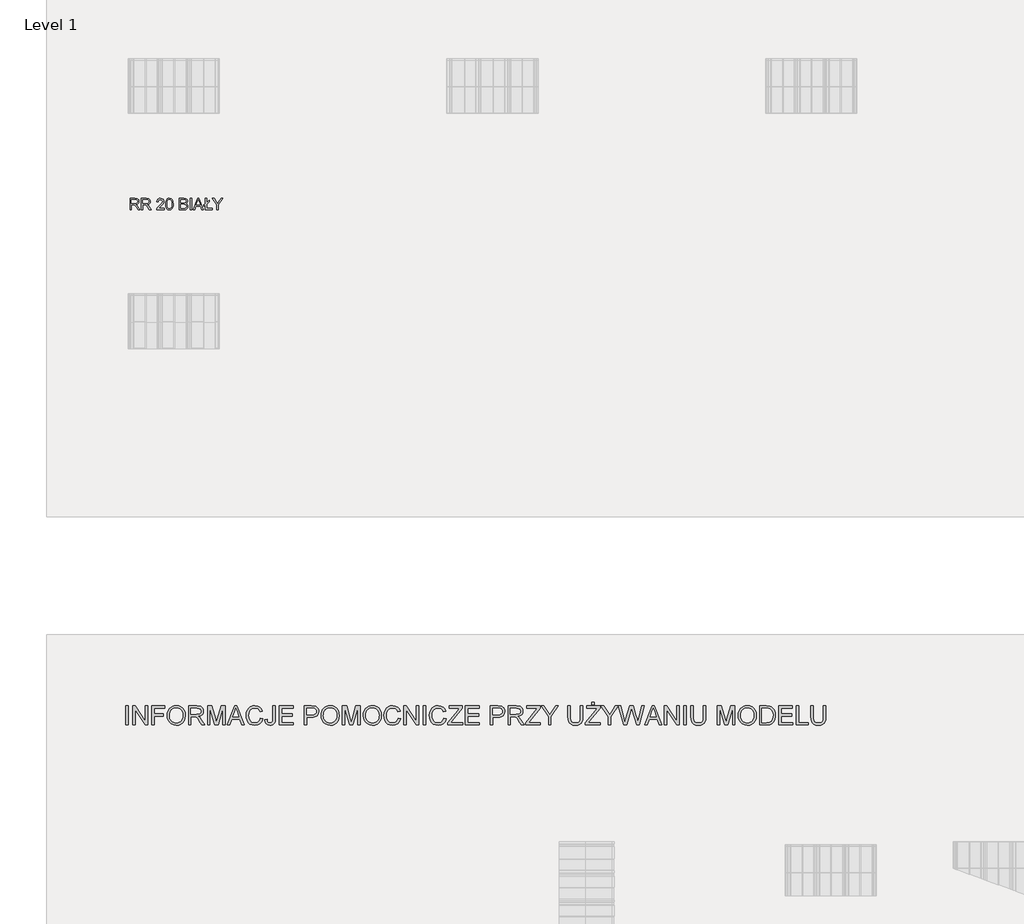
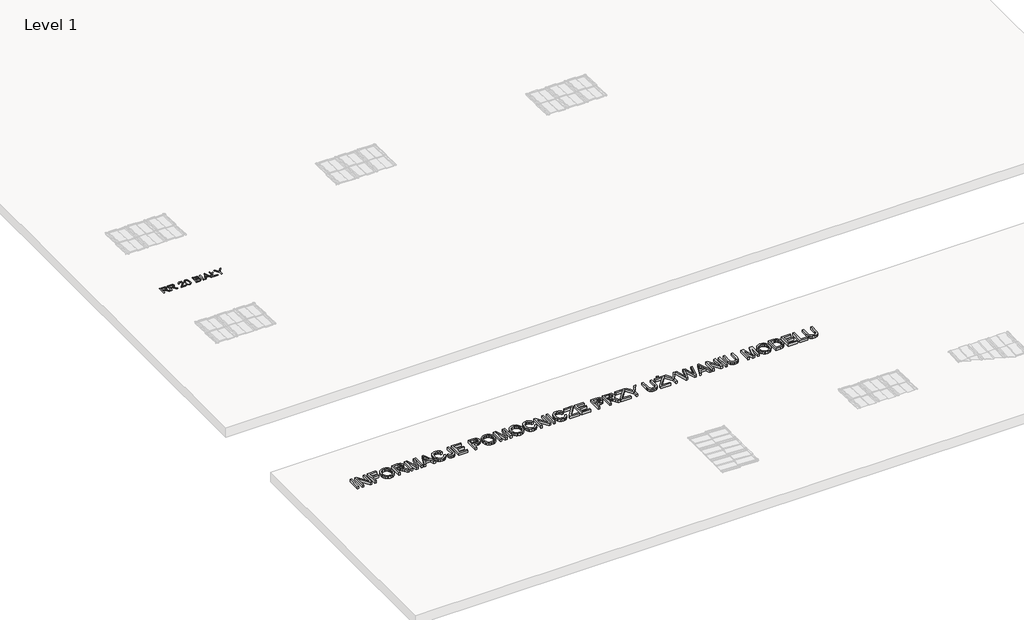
# One storey, part 4 of 10: 2 proxies.
"""IFC4 building model written with IfcOpenShell, lengths in millimetres."""

import ifcopenshell
import ifcopenshell.guid

model = None  # the IFC model being written
_history = None  # IfcOwnerHistory: only IFC2X3 demands one
_inside = {}  # id of a spatial element -> (the spatial element, [elements in it])
_under = {}  # id of a project, library or spatial element -> (it, [spatial elements below it])
_declared = {}  # id of a project -> (the project, [libraries it declares])
_typed = {}  # id of a type object -> (the type object, [elements of that type])
_made_of = {}  # id of a material, layer set ... -> (it, [elements and type objects made of it])


def new_model(schema):
    """Start an empty IFC model of exactly this schema.

    Asked for "IFC4X3", IfcOpenShell would pick the latest addendum, in which some entities
    have other attributes; the version numbers below select the first issue.
    IFC2X3 requires an IfcOwnerHistory on every rooted entity: one is made here for all.
    """
    global model, _history
    if schema == "IFC4X3":
        model = ifcopenshell.file(schema_version=(4, 3, 0, 0))
    else:
        model = ifcopenshell.file(schema=schema)
    _inside.clear()
    _under.clear()
    _declared.clear()
    _typed.clear()
    _made_of.clear()
    _history = None
    if model.schema == "IFC2X3":
        org = make("IfcOrganization", Name="unknown")
        user = make(
            "IfcPersonAndOrganization",
            ThePerson=make("IfcPerson", FamilyName="unknown"),
            TheOrganization=org,
        )
        app = make(
            "IfcApplication",
            ApplicationDeveloper=org,
            Version="unknown",
            ApplicationFullName="unknown",
            ApplicationIdentifier="unknown",
        )
        _history = make(
            "IfcOwnerHistory",
            OwningUser=user,
            OwningApplication=app,
            ChangeAction="ADDED",
            CreationDate=0,
        )
    return model


def make(cls, **values):
    """One entity of the class cls with the attributes given. An attribute that is None is left unset."""
    return model.create_entity(
        cls, **{name: value for name, value in values.items() if value is not None}
    )


def rooted(cls, **values):
    """An entity with a GlobalId (a new one), such as an element, a storey or a relation."""
    return make(cls, GlobalId=ifcopenshell.guid.new(), OwnerHistory=_history, **values)


def si_unit(unit_type, name, prefix=None):
    """IfcSIUnit, for example si_unit("LENGTHUNIT", "METRE", prefix="MILLI")."""
    return make("IfcSIUnit", UnitType=unit_type, Prefix=prefix, Name=name)


def assignment(units):
    """IfcUnitAssignment: the units of a project."""
    return None if units is None else make("IfcUnitAssignment", Units=units)


def point(xyz):
    """IfcCartesianPoint."""
    return None if xyz is None else make("IfcCartesianPoint", Coordinates=xyz)


def direction(xyz):
    """IfcDirection."""
    return None if xyz is None else make("IfcDirection", DirectionRatios=xyz)


def frame(location, z_axis=None, x_axis=None):
    """IfcAxis2Placement3D, a coordinate frame: its origin and axes. An axis left out is left unset."""
    return make(
        "IfcAxis2Placement3D",
        Location=point(location),
        Axis=direction(z_axis),
        RefDirection=direction(x_axis),
    )


def origin():
    """The frame at (0, 0, 0) with its axes left unset."""
    return frame((0.0, 0.0, 0.0))


def place(relative_to, where):
    """IfcLocalPlacement: puts the frame where relative to a parent placement (None: the world)."""
    return make(
        "IfcLocalPlacement", PlacementRelTo=relative_to, RelativePlacement=where
    )


def context(
    kind, dimensions, precision=None, world=None, true_north=None, identifier=None
):
    """IfcGeometricRepresentationContext, for example the 3D "Model" context."""
    return make(
        "IfcGeometricRepresentationContext",
        ContextIdentifier=identifier,
        ContextType=kind,
        CoordinateSpaceDimension=dimensions,
        Precision=precision,
        WorldCoordinateSystem=world,
        TrueNorth=true_north,
    )


def project(units=None, contexts=None):
    """IfcProject with its units and contexts."""
    return rooted(
        "IfcProject",
        Name="project",
        RepresentationContexts=contexts,
        UnitsInContext=assignment(units),
    )


def spatial(cls, under=None, at=None, **own):
    """A site, building, storey or space (cls), placed at a placement, below another one or the project."""
    s = rooted(cls, ObjectPlacement=at, **own)
    if under is not None:
        _under.setdefault(under.id(), (under, []))[1].append(s)
    return s


def polyline(points):
    """IfcPolyline through the points."""
    return make("IfcPolyline", Points=[point(p) for p in points])


def outline(outer, holes=None, kind="AREA"):
    """IfcArbitraryClosedProfileDef: a profile drawn as a closed curve; with holes, ...WithVoids."""
    if holes is None:
        return make("IfcArbitraryClosedProfileDef", ProfileType=kind, OuterCurve=outer)
    return make(
        "IfcArbitraryProfileDefWithVoids",
        ProfileType=kind,
        OuterCurve=outer,
        InnerCurves=holes,
    )


def extrude(swept, where, along, depth):
    """IfcExtrudedAreaSolid: the profile swept, set in the frame where, extruded along a direction by depth."""
    return make(
        "IfcExtrudedAreaSolid",
        SweptArea=swept,
        Position=where,
        ExtrudedDirection=direction(along),
        Depth=depth,
    )


def shape(context_of_items, identifier, shape_type, items):
    """IfcShapeRepresentation: the items that make up one representation, for example the "Body"."""
    return make(
        "IfcShapeRepresentation",
        ContextOfItems=context_of_items,
        RepresentationIdentifier=identifier,
        RepresentationType=shape_type,
        Items=items,
    )


def made_of(thing, what):
    """Note that an element or type object is made of a material, layer set ...; save() writes the relation."""
    if what is not None:
        _made_of.setdefault(what.id(), (what, []))[1].append(thing)
    return thing


def element(
    cls,
    number,
    at=None,
    inside=None,
    cuts=None,
    type_object=None,
    material=None,
    context=None,
    identifier="Body",
    shape_type=None,
    held_by="IfcProductDefinitionShape",
    body=None,
    shapes=None,
    **own,
):
    """One element of the class cls, such as IfcWall. Its Tag is "e" and its number.

    at: its placement. inside: the storey or other place that contains it. cuts: it is an
    opening in that element (IfcRelVoidsElement). A single representation is given by context,
    identifier, shape_type and body (its items); several are given by shapes. held_by: the class
    of the entity that holds the representations. save() writes the other relations.
    """
    e = rooted(cls, Tag="e%d" % number, ObjectPlacement=at, **own)
    if body is not None:
        shapes = [shape(context, identifier, shape_type, body)]
    if shapes is not None:
        e.Representation = make(held_by, Representations=shapes)
    if inside is not None:
        _inside.setdefault(inside.id(), (inside, []))[1].append(e)
    if cuts is not None:
        rooted(
            "IfcRelVoidsElement", RelatingBuildingElement=cuts, RelatedOpeningElement=e
        )
    if type_object is not None:
        _typed.setdefault(type_object.id(), (type_object, []))[1].append(e)
    return made_of(e, material)


def aggregate(whole, parts):
    """IfcRelAggregates: a whole, such as a stair, and the parts it consists of."""
    return rooted("IfcRelAggregates", RelatingObject=whole, RelatedObjects=parts)


def save(model, path):
    """Write the relations noted so far, then the file.

    IfcRelAggregates (storeys below a building ...), IfcRelContainedInSpatialStructure (elements
    in a storey), IfcRelDefinesByType, IfcRelAssociatesMaterial and IfcRelDeclares: one each for
    every whole, place, type object, material and project.
    """
    for whole, parts in _under.values():
        aggregate(whole, parts)
    for where, things in _inside.values():
        rooted(
            "IfcRelContainedInSpatialStructure",
            RelatedElements=things,
            RelatingStructure=where,
        )
    for kind, things in _typed.values():
        rooted("IfcRelDefinesByType", RelatedObjects=things, RelatingType=kind)
    for what, things in _made_of.values():
        rooted("IfcRelAssociatesMaterial", RelatedObjects=things, RelatingMaterial=what)
    for by, libraries in _declared.values():
        rooted("IfcRelDeclares", RelatingContext=by, RelatedDefinitions=libraries)
    model.write(path)


model = new_model("IFC4")

# Units and contexts
model_context = context("Model", 3, world=origin())
ifc_project = project(units=[si_unit("LENGTHUNIT", "METRE", prefix="MILLI")], contexts=[model_context])

# Site, building, storey
site = spatial("IfcSite", under=ifc_project)
building = spatial("IfcBuilding", under=site)
storey = spatial("IfcBuildingStorey", under=building, Name="Level 1", Elevation=0.0)

# Proxies
placement = place(None, origin())
element("IfcBuildingElementProxy", 1, Name="150", ObjectType="150", at=placement, inside=storey, context=model_context, shape_type="SweptSolid", body=[
    extrude(outline(polyline([(-8736.4118342, -7835.6514112), (-8736.4118342, -7684.966946), (-8671.4806621, -7684.966946), (-8641.3327325, -7689.032042), (-8632.0529092, -7694.6606365), (-8624.8516192, -7703.416228), (-8620.2301016, -7714.2733454), (-8618.6895957, -7726.2065176), (-8621.2417771, -7741.0505561), (-8628.8983211, -7753.3562089), (-8641.8891541, -7762.3785148), (-8660.4442022, -7767.3725129), (-8649.7388361, -7775.4291286), (-8634.4717333, -7794.8165097), (-8609.3453931, -7835.6514112), (-8631.2343718, -7835.6514112), (-8650.8424821, -7804.4182298), (-8665.0059389, -7783.7432617), (-8674.9571469, -7773.9759947), (-8683.9150735, -7770.3891452), (-8694.8411687, -7769.7269577), (-8717.576276, -7769.7269577), (-8717.576276, -7835.6514112), (-8736.4118342, -7835.6514112)]), holes=[polyline([(-8717.576276, -7750.8913995), (-8675.4169994, -7750.8913995), (-8653.9142968, -7748.224255), (-8641.7006145, -7739.6893927), (-8637.5251539, -7726.9054934), (-8639.5163152, -7717.7176406), (-8645.4897991, -7710.3140154), (-8655.7675023, -7705.4303819), (-8670.6713217, -7703.8025041), (-8717.576276, -7703.8025041), (-8717.576276, -7750.8913995)])]), frame((0.0, 0.0, 600.0), z_axis=(0.0, 0.0, 1.0), x_axis=(1.0, 0.0, 0.0)), (0.0, 0.0, 1.0), 10.0),
    extrude(outline(polyline([(-8585.727369, -7835.6514112), (-8585.727369, -7684.966946), (-8520.7961968, -7684.966946), (-8490.6482673, -7689.032042), (-8481.368444, -7694.6606365), (-8474.1671539, -7703.416228), (-8469.5456364, -7714.2733454), (-8468.0051305, -7726.2065176), (-8470.5573119, -7741.0505561), (-8478.2138559, -7753.3562089), (-8491.2046888, -7762.3785148), (-8509.759737, -7767.3725129), (-8499.0543709, -7775.4291286), (-8483.7872681, -7794.8165097), (-8458.6609278, -7835.6514112), (-8480.5499066, -7835.6514112), (-8500.1580169, -7804.4182298), (-8514.3214737, -7783.7432617), (-8524.2726817, -7773.9759947), (-8533.2306083, -7770.3891452), (-8544.1567035, -7769.7269577), (-8566.8918108, -7769.7269577), (-8566.8918108, -7835.6514112), (-8585.727369, -7835.6514112)]), holes=[polyline([(-8566.8918108, -7750.8913995), (-8524.7325342, -7750.8913995), (-8503.2298316, -7748.224255), (-8491.0161493, -7739.6893927), (-8486.8406887, -7726.9054934), (-8488.83185, -7717.7176406), (-8494.8053339, -7710.3140154), (-8505.0830371, -7705.4303819), (-8519.9868564, -7703.8025041), (-8566.8918108, -7703.8025041), (-8566.8918108, -7750.8913995)])]), frame((0.0, 0.0, 600.0), z_axis=(0.0, 0.0, 1.0), x_axis=(1.0, 0.0, 0.0)), (0.0, 0.0, 1.0), 10.0),
    extrude(outline(polyline([(-8286.7128833, -7816.815853), (-8286.7128833, -7835.6514112), (-8385.5995636, -7835.6514112), (-8383.5762126, -7822.6651768), (-8372.1166885, -7802.6707903), (-8348.5170585, -7780.8369939), (-8316.0146842, -7749.4566597), (-8309.9308357, -7738.6409291), (-8307.9028862, -7728.119504), (-8309.8204711, -7718.6879293), (-8315.5732258, -7710.8474443), (-8324.4161893, -7705.5637392), (-8335.6044005, -7703.8025041), (-8347.3536317, -7705.5223524), (-8356.4817037, -7710.6818974), (-8362.3724141, -7718.8764689), (-8364.4095607, -7729.7013966), (-8383.2451188, -7727.3469518), (-8378.6787836, -7709.127596), (-8368.8057505, -7695.8194648), (-8354.1410545, -7687.6800757), (-8335.1997303, -7684.966946), (-8316.1204503, -7687.9835783), (-8301.4833454, -7697.0334754), (-8292.1713324, -7710.5531387), (-8289.0673281, -7726.9790698), (-8292.4150542, -7744.8397407), (-8303.5434846, -7763.3074168), (-8330.5276289, -7789.1143388), (-8352.1958784, -7807.2325271), (-8360.6939525, -7816.815853), (-8286.7128833, -7816.815853)])), frame((0.0, 0.0, 600.0), z_axis=(0.0, 0.0, 1.0), x_axis=(1.0, 0.0, 0.0)), (0.0, 0.0, 1.0), 10.0),
    extrude(outline(polyline([(-8267.8773251, -7761.5231892), (-8266.4931691, -7737.4039259), (-8262.3407011, -7718.168296), (-8255.4613078, -7703.5219941), (-8245.8963759, -7693.1707145), (-8233.5769276, -7687.0178881), (-8218.433985, -7684.966946), (-8196.4346417, -7689.8229883), (-8181.2411153, -7703.8208982), (-8172.4119474, -7726.1145471), (-8168.9906448, -7761.5231892), (-8170.3610053, -7785.5044967), (-8174.4720866, -7804.6941413), (-8181.3100932, -7819.3542388), (-8190.8612295, -7829.7469052), (-8203.2082689, -7835.9411183), (-8218.433985, -7838.005856), (-8238.0053071, -7834.4190065), (-8252.8677397, -7823.6584581), (-8264.1249288, -7798.1734329), (-8267.8773251, -7761.5231892)]), holes=[polyline([(-8249.041767, -7761.486401), (-8246.834475, -7791.1146971), (-8240.2125991, -7808.2625966), (-8230.3533616, -7816.4433725), (-8218.433985, -7819.1702978), (-8206.5146083, -7816.4341755), (-8196.6553709, -7808.2258084), (-8190.033495, -7791.0687119), (-8187.826203, -7761.486401), (-8189.9599186, -7732.5248909), (-8196.3610653, -7715.2436342), (-8206.2019087, -7706.6627866), (-8218.6547142, -7703.8025041), (-8230.4453321, -7706.3224958), (-8239.9182935, -7713.8824708), (-8246.7608986, -7732.2397823), (-8249.041767, -7761.486401)])]), frame((0.0, 0.0, 600.0), z_axis=(0.0, 0.0, 1.0), x_axis=(1.0, 0.0, 0.0)), (0.0, 0.0, 1.0), 10.0),
    extrude(outline(polyline([(-8086.5850779, -7835.6514112), (-8086.5850779, -7684.966946), (-8029.0851221, -7684.966946), (-8000.9237553, -7689.399924), (-7991.459991, -7695.02392), (-7984.2954892, -7703.0299519), (-7978.2806185, -7722.3069685), (-7983.338996, -7739.9101219), (-7998.6244929, -7753.2458443), (-7987.9513165, -7758.8192565), (-7980.0648462, -7767.2989365), (-7975.1950083, -7778.1238642), (-7973.571729, -7790.7330196), (-7978.004707, -7810.9849234), (-7988.9859846, -7825.4058976), (-8005.3751275, -7833.0578431), (-8029.5265805, -7835.6514112), (-8086.5850779, -7835.6514112)]), holes=[polyline([(-8067.7495198, -7746.18251), (-8033.3525532, -7746.18251), (-8013.2661963, -7744.5638292), (-8001.1812727, -7737.5924654), (-7997.1161767, -7725.3236008), (-8000.9053612, -7713.0363422), (-8011.7578801, -7705.7706728), (-8035.9645154, -7703.8025041), (-8067.7495198, -7703.8025041), (-8067.7495198, -7746.18251)]), polyline([(-8067.7495198, -7816.815853), (-8029.1219103, -7816.815853), (-8015.1423945, -7816.080089), (-8003.3149883, -7811.9782048), (-7995.4791018, -7803.6088894), (-7992.4072872, -7790.9169606), (-7996.0125307, -7776.2752572), (-8007.6927841, -7767.5380598), (-8030.9613203, -7765.0180681), (-8067.7495198, -7765.0180681), (-8067.7495198, -7816.815853)])]), frame((0.0, 0.0, 600.0), z_axis=(0.0, 0.0, 1.0), x_axis=(1.0, 0.0, 0.0)), (0.0, 0.0, 1.0), 10.0),
    extrude(outline(polyline([(-7945.3183918, -7835.6514112), (-7945.3183918, -7684.966946), (-7926.4828336, -7684.966946), (-7926.4828336, -7835.6514112), (-7945.3183918, -7835.6514112)])), frame((0.0, 0.0, 600.0), z_axis=(0.0, 0.0, 1.0), x_axis=(1.0, 0.0, 0.0)), (0.0, 0.0, 1.0), 10.0),
    extrude(outline(polyline([(-7906.3229003, -7835.6514112), (-7846.1741941, -7684.966946), (-7830.1345391, -7684.966946), (-7770.0226211, -7835.6514112), (-7789.925037, -7835.6514112), (-7807.1419144, -7788.5625158), (-7869.2403952, -7788.5625158), (-7886.4572725, -7835.6514112), (-7906.3229003, -7835.6514112)]), holes=[polyline([(-7862.3242137, -7769.7269577), (-7814.0213077, -7769.7269577), (-7827.6329415, -7732.6812407), (-7838.1911548, -7703.8025041), (-7847.5721457, -7729.4438792), (-7862.3242137, -7769.7269577)])]), frame((0.0, 0.0, 600.0), z_axis=(0.0, 0.0, 1.0), x_axis=(1.0, 0.0, 0.0)), (0.0, 0.0, 1.0), 10.0),
    extrude(outline(polyline([(-7747.5450312, -7776.0177398), (-7764.0261446, -7789.7397382), (-7764.0261446, -7770.90418), (-7747.5450312, -7757.1821816), (-7747.5450312, -7684.966946), (-7728.709473, -7684.966946), (-7728.709473, -7741.4736204), (-7693.3928015, -7712.0430608), (-7693.3928015, -7730.878619), (-7728.709473, -7760.3091786), (-7728.709473, -7816.815853), (-7653.3672404, -7816.815853), (-7653.3672404, -7835.6514112), (-7747.5450312, -7835.6514112), (-7747.5450312, -7776.0177398)])), frame((0.0, 0.0, 600.0), z_axis=(0.0, 0.0, 1.0), x_axis=(1.0, 0.0, 0.0)), (0.0, 0.0, 1.0), 10.0),
    extrude(outline(polyline([(-7592.1516764, -7835.6514112), (-7592.1516764, -7771.823885), (-7651.0127956, -7684.966946), (-7628.8295113, -7684.966946), (-7597.4123889, -7731.3568656), (-7581.3359457, -7755.048466), (-7565.1859262, -7729.6646084), (-7536.6750715, -7684.966946), (-7514.454999, -7684.966946), (-7573.3161183, -7771.823885), (-7573.3161183, -7835.6514112), (-7592.1516764, -7835.6514112)])), frame((0.0, 0.0, 600.0), z_axis=(0.0, 0.0, 1.0), x_axis=(1.0, 0.0, 0.0)), (0.0, 0.0, 1.0), 10.0),
])
element("IfcBuildingElementProxy", 2, Name="250", ObjectType="250", at=placement, inside=storey, context=model_context, shape_type="SweptSolid", body=[
    extrude(outline(polyline([(-8793.2713947, -14626.8895255), (-8793.2713947, -14375.7487501), (-8761.8787978, -14375.7487501), (-8761.8787978, -14626.8895255), (-8793.2713947, -14626.8895255)])), frame((0.0, 0.0, 600.0), z_axis=(0.0, 0.0, 1.0), x_axis=(1.0, 0.0, 0.0)), (0.0, 0.0, 1.0), 50.0),
    extrude(outline(polyline([(-8699.0936039, -14626.8895255), (-8699.0936039, -14375.7487501), (-8665.493715, -14375.7487501), (-8534.2824701, -14574.7115958), (-8534.2824701, -14375.7487501), (-8502.8898732, -14375.7487501), (-8502.8898732, -14626.8895255), (-8536.4897621, -14626.8895255), (-8667.701007, -14427.8653661), (-8667.701007, -14626.8895255), (-8699.0936039, -14626.8895255)])), frame((0.0, 0.0, 600.0), z_axis=(0.0, 0.0, 1.0), x_axis=(1.0, 0.0, 0.0)), (0.0, 0.0, 1.0), 50.0),
    extrude(outline(polyline([(-8447.9528286, -14626.8895255), (-8447.9528286, -14375.7487501), (-8279.2176201, -14375.7487501), (-8279.2176201, -14407.141347), (-8416.5602316, -14407.141347), (-8416.5602316, -14481.6987647), (-8298.8379932, -14481.6987647), (-8298.8379932, -14513.0913616), (-8416.5602316, -14513.0913616), (-8416.5602316, -14626.8895255), (-8447.9528286, -14626.8895255)])), frame((0.0, 0.0, 600.0), z_axis=(0.0, 0.0, 1.0), x_axis=(1.0, 0.0, 0.0)), (0.0, 0.0, 1.0), 50.0),
    extrude(outline(polyline([(-8247.8250232, -14504.6300758), (-8245.7326943, -14475.1726914), (-8239.4557078, -14449.0952229), (-8228.9940635, -14426.3976702), (-8214.3477616, -14407.0800334), (-8196.3943538, -14391.6558143), (-8176.011392, -14380.638515), (-8153.1988762, -14374.0281354), (-8127.9568064, -14371.8246755), (-8095.0160394, -14375.9633479), (-8065.4781809, -14388.3793653), (-8040.9527146, -14408.1990078), (-8023.0491241, -14434.5485557), (-8012.1046348, -14466.1557504), (-8008.4564716, -14501.7483335), (-8012.29624, -14537.8160974), (-8023.8155449, -14569.8678162), (-8042.3782573, -14596.2633494), (-8067.3482477, -14615.3625563), (-8096.6331874, -14626.9508392), (-8128.1407474, -14630.8136001), (-8161.5873521, -14626.5446361), (-8191.2938232, -14613.7377442), (-8215.7579759, -14593.5502197), (-8233.4776254, -14567.1393581), (-8244.2381737, -14536.7507725), (-8247.8250232, -14504.6300758)]), holes=[polyline([(-8216.4324263, -14504.9366441), (-8214.8631796, -14525.7488015), (-8210.1554397, -14544.2233755), (-8202.3092065, -14560.3603659), (-8191.3244801, -14574.1597728), (-8177.9715133, -14585.2115611), (-8163.0205591, -14593.1056956), (-8146.4716175, -14597.8421763), (-8128.3246884, -14599.4210032), (-8109.8673589, -14597.8268479), (-8093.12298, -14593.0443819), (-8078.0915516, -14585.0736054), (-8064.7730737, -14573.9145182), (-8053.8688215, -14559.8238713), (-8046.0800699, -14543.0584158), (-8041.4068189, -14523.6181517), (-8039.8490686, -14501.5030788), (-8042.516213, -14473.7126597), (-8050.5176464, -14449.6930311), (-8063.6464351, -14430.0496654), (-8081.6956455, -14415.3880351), (-8103.4696611, -14406.2599631), (-8127.7728654, -14403.2172724), (-8161.5413669, -14409.0803917), (-8190.2514909, -14426.6697496), (-8201.7056501, -14440.3561095), (-8209.8871924, -14457.9627118), (-8214.7961178, -14479.4895567), (-8216.4324263, -14504.9366441)])]), frame((0.0, 0.0, 600.0), z_axis=(0.0, 0.0, 1.0), x_axis=(1.0, 0.0, 0.0)), (0.0, 0.0, 1.0), 50.0),
    extrude(outline(polyline([(-7965.2916509, -14626.8895255), (-7965.2916509, -14375.7487501), (-7857.0730306, -14375.7487501), (-7827.9873604, -14377.4425401), (-7806.8264815, -14382.5239102), (-7791.3601092, -14391.9049011), (-7779.3579592, -14406.4975535), (-7771.6554299, -14424.5927492), (-7769.0879201, -14444.4813695), (-7773.3415557, -14469.2214337), (-7786.1024624, -14489.7308549), (-7807.7538507, -14504.7680315), (-7838.6789309, -14513.0913616), (-7820.8366541, -14526.5190545), (-7795.3914828, -14558.8313564), (-7753.514249, -14626.8895255), (-7789.9958802, -14626.8895255), (-7822.6760641, -14574.8342232), (-7846.2818254, -14540.375943), (-7862.8671721, -14524.0971647), (-7877.7970497, -14518.1190822), (-7896.0072085, -14517.0154363), (-7933.899054, -14517.0154363), (-7933.899054, -14626.8895255), (-7965.2916509, -14626.8895255)]), holes=[polyline([(-7933.899054, -14485.6228393), (-7863.6335929, -14485.6228393), (-7827.7957552, -14481.1775986), (-7816.0082029, -14475.3987856), (-7807.4396181, -14466.9528281), (-7802.2202923, -14456.7364385), (-7800.480517, -14445.6463292), (-7803.7991192, -14430.3332411), (-7813.7549257, -14417.9938659), (-7830.8844311, -14409.8544767), (-7855.72413, -14407.141347), (-7933.899054, -14407.141347), (-7933.899054, -14485.6228393)])]), frame((0.0, 0.0, 600.0), z_axis=(0.0, 0.0, 1.0), x_axis=(1.0, 0.0, 0.0)), (0.0, 0.0, 1.0), 50.0),
    extrude(outline(polyline([(-7714.1508755, -14626.8895255), (-7714.1508755, -14375.7487501), (-7660.3174769, -14375.7487501), (-7608.8139976, -14552.7613035), (-7598.3906744, -14589.733444), (-7587.1702735, -14549.6956202), (-7536.6478128, -14375.7487501), (-7482.6304732, -14375.7487501), (-7482.6304732, -14626.8895255), (-7514.0230701, -14626.8895255), (-7514.0230701, -14407.141347), (-7577.1148323, -14626.8895255), (-7619.6052027, -14626.8895255), (-7682.7582786, -14407.141347), (-7682.7582786, -14626.8895255), (-7714.1508755, -14626.8895255)])), frame((0.0, 0.0, 600.0), z_axis=(0.0, 0.0, 1.0), x_axis=(1.0, 0.0, 0.0)), (0.0, 0.0, 1.0), 50.0),
    extrude(outline(polyline([(-7456.8787335, -14626.8895255), (-7356.6308899, -14375.7487501), (-7329.8981315, -14375.7487501), (-7229.7116015, -14626.8895255), (-7262.8822948, -14626.8895255), (-7291.5770904, -14548.4080332), (-7395.0745584, -14548.4080332), (-7423.769354, -14626.8895255), (-7456.8787335, -14626.8895255)]), holes=[polyline([(-7383.5475892, -14517.0154363), (-7303.0427459, -14517.0154363), (-7325.7288023, -14455.2725747), (-7343.3258244, -14407.141347), (-7358.9608092, -14449.8769721), (-7383.5475892, -14517.0154363)])]), frame((0.0, 0.0, 600.0), z_axis=(0.0, 0.0, 1.0), x_axis=(1.0, 0.0, 0.0)), (0.0, 0.0, 1.0), 50.0),
    extrude(outline(polyline([(-7019.5896686, -14537.616828), (-6988.1970717, -14545.7102319), (-7002.6824253, -14582.2914978), (-7025.4144669, -14609.0165919), (-7055.2742221, -14625.364348), (-7091.1427167, -14630.8136001), (-7127.55537, -14626.6902561), (-7156.4724277, -14614.320224), (-7178.6373179, -14594.1326995), (-7194.7934688, -14566.5568783), (-7204.6573048, -14534.1372775), (-7207.9452501, -14499.4184142), (-7204.2281091, -14462.7988272), (-7193.0766862, -14431.1763041), (-7175.073461, -14405.5548559), (-7150.8009136, -14386.9384941), (-7122.0141474, -14375.6031302), (-7090.4682663, -14371.8246755), (-7056.0483072, -14376.7144403), (-7027.591102, -14391.3837349), (-7005.985699, -14414.9281826), (-6992.1211463, -14446.4434069), (-7023.5137432, -14453.9236741), (-7034.3969189, -14431.0306841), (-7049.2654829, -14415.3267214), (-7068.3033761, -14406.2446347), (-7091.6945397, -14403.2172724), (-7118.6572242, -14406.5741956), (-7140.806786, -14416.6449652), (-7157.6143947, -14432.3719205), (-7168.5512198, -14452.6974008), (-7174.5522949, -14475.6746971), (-7176.5526532, -14499.3571005), (-7174.1844129, -14528.3584644), (-7167.0796918, -14553.4357538), (-7154.9702428, -14573.6309425), (-7137.5878186, -14587.9860045), (-7116.7488364, -14596.5622535), (-7094.2697136, -14599.4210032), (-7068.0657857, -14595.5275854), (-7046.2304564, -14583.847332), (-7029.7447445, -14564.5028705), (-7019.5896686, -14537.616828)])), frame((0.0, 0.0, 600.0), z_axis=(0.0, 0.0, 1.0), x_axis=(1.0, 0.0, 0.0)), (0.0, 0.0, 1.0), 50.0),
    extrude(outline(polyline([(-6960.7285494, -14556.3788097), (-6929.3359525, -14552.3321078), (-6926.0709998, -14575.1561199), (-6918.6060609, -14589.4268756), (-6907.2017191, -14596.9224713), (-6892.1185573, -14599.4210032), (-6880.5226102, -14598.0031247), (-6870.6281174, -14593.7494891), (-6862.994566, -14587.0509711), (-6858.1814432, -14578.2984453), (-6854.7785348, -14547.1817599), (-6854.7785348, -14375.7487501), (-6823.3859379, -14375.7487501), (-6823.3859379, -14546.6299369), (-6825.2789973, -14574.5813043), (-6830.9581756, -14595.4049581), (-6840.7530337, -14610.6184114), (-6854.9931326, -14621.7391776), (-6872.8737304, -14628.5449945), (-6893.5900853, -14630.8136001), (-6922.6067776, -14626.1307689), (-6943.9286049, -14612.0822752), (-6956.8657884, -14588.7907464), (-6960.7285494, -14556.3788097)])), frame((0.0, 0.0, 600.0), z_axis=(0.0, 0.0, 1.0), x_axis=(1.0, 0.0, 0.0)), (0.0, 0.0, 1.0), 50.0),
    extrude(outline(polyline([(-6768.4488932, -14626.8895255), (-6768.4488932, -14375.7487501), (-6587.9414609, -14375.7487501), (-6587.9414609, -14407.141347), (-6737.0562963, -14407.141347), (-6737.0562963, -14481.6987647), (-6595.7896102, -14481.6987647), (-6595.7896102, -14513.0913616), (-6737.0562963, -14513.0913616), (-6737.0562963, -14595.4969286), (-6584.0173863, -14595.4969286), (-6584.0173863, -14626.8895255), (-6768.4488932, -14626.8895255)])), frame((0.0, 0.0, 600.0), z_axis=(0.0, 0.0, 1.0), x_axis=(1.0, 0.0, 0.0)), (0.0, 0.0, 1.0), 50.0),
    extrude(outline(polyline([(-6438.8266256, -14626.8895255), (-6438.8266256, -14375.7487501), (-6345.7524808, -14375.7487501), (-6308.2285173, -14378.1399831), (-6291.4975507, -14382.6082165), (-6277.7249685, -14389.8815501), (-6266.6348592, -14400.2895449), (-6257.9513113, -14414.1617618), (-6252.3411108, -14430.5248464), (-6250.471044, -14448.4054442), (-6255.5217573, -14478.0046164), (-6270.6738969, -14502.6680384), (-6282.8082546, -14512.3785903), (-6299.0084748, -14519.3146987), (-6319.2745574, -14523.4763638), (-6343.6065025, -14524.8635855), (-6407.4340286, -14524.8635855), (-6407.4340286, -14626.8895255), (-6438.8266256, -14626.8895255)]), holes=[polyline([(-6407.4340286, -14493.4709886), (-6341.7670925, -14493.4709886), (-6313.9306882, -14490.5892463), (-6295.5365884, -14481.9440194), (-6285.2818778, -14468.0718025), (-6281.863641, -14449.5090901), (-6283.8793277, -14435.406947), (-6289.926388, -14423.5120958), (-6299.2537294, -14414.5603006), (-6311.1102596, -14409.2873253), (-6342.5028565, -14407.141347), (-6407.4340286, -14407.141347), (-6407.4340286, -14493.4709886)])]), frame((0.0, 0.0, 600.0), z_axis=(0.0, 0.0, 1.0), x_axis=(1.0, 0.0, 0.0)), (0.0, 0.0, 1.0), 50.0),
    extrude(outline(polyline([(-6219.0784471, -14504.6300758), (-6216.9861183, -14475.1726914), (-6210.7091317, -14449.0952229), (-6200.2474875, -14426.3976702), (-6185.6011855, -14407.0800334), (-6167.6477778, -14391.6558143), (-6147.264816, -14380.638515), (-6124.4523002, -14374.0281354), (-6099.2102303, -14371.8246755), (-6066.2694634, -14375.9633479), (-6036.7316048, -14388.3793653), (-6012.2061385, -14408.1990078), (-5994.3025481, -14434.5485557), (-5983.3580587, -14466.1557504), (-5979.7098956, -14501.7483335), (-5983.5496639, -14537.8160974), (-5995.0689689, -14569.8678162), (-6013.6316812, -14596.2633494), (-6038.6016716, -14615.3625563), (-6067.8866113, -14626.9508392), (-6099.3941713, -14630.8136001), (-6132.8407761, -14626.5446361), (-6162.5472472, -14613.7377442), (-6187.0113999, -14593.5502197), (-6204.7310493, -14567.1393581), (-6215.4915977, -14536.7507725), (-6219.0784471, -14504.6300758)]), holes=[polyline([(-6187.6858502, -14504.9366441), (-6186.1166035, -14525.7488015), (-6181.4088636, -14544.2233755), (-6173.5626305, -14560.3603659), (-6162.577904, -14574.1597728), (-6149.2249372, -14585.2115611), (-6134.273983, -14593.1056956), (-6117.7250414, -14597.8421763), (-6099.5781123, -14599.4210032), (-6081.1207829, -14597.8268479), (-6064.3764039, -14593.0443819), (-6049.3449755, -14585.0736054), (-6036.0264977, -14573.9145182), (-6025.1222454, -14559.8238713), (-6017.3334938, -14543.0584158), (-6012.6602428, -14523.6181517), (-6011.1024925, -14501.5030788), (-6013.769637, -14473.7126597), (-6021.7710704, -14449.6930311), (-6034.8998591, -14430.0496654), (-6052.9490695, -14415.3880351), (-6074.723085, -14406.2599631), (-6099.0262893, -14403.2172724), (-6132.7947908, -14409.0803917), (-6161.5049149, -14426.6697496), (-6172.9590741, -14440.3561095), (-6181.1406164, -14457.9627118), (-6186.0495417, -14479.4895567), (-6187.6858502, -14504.9366441)])]), frame((0.0, 0.0, 600.0), z_axis=(0.0, 0.0, 1.0), x_axis=(1.0, 0.0, 0.0)), (0.0, 0.0, 1.0), 50.0),
    extrude(outline(polyline([(-5936.5450748, -14626.8895255), (-5936.5450748, -14375.7487501), (-5882.7116762, -14375.7487501), (-5831.2081969, -14552.7613035), (-5820.7848737, -14589.733444), (-5809.5644728, -14549.6956202), (-5759.0420121, -14375.7487501), (-5705.0246725, -14375.7487501), (-5705.0246725, -14626.8895255), (-5736.4172694, -14626.8895255), (-5736.4172694, -14407.141347), (-5799.5090316, -14626.8895255), (-5841.9994021, -14626.8895255), (-5905.1524779, -14407.141347), (-5905.1524779, -14626.8895255), (-5936.5450748, -14626.8895255)])), frame((0.0, 0.0, 600.0), z_axis=(0.0, 0.0, 1.0), x_axis=(1.0, 0.0, 0.0)), (0.0, 0.0, 1.0), 50.0),
    extrude(outline(polyline([(-5661.8598517, -14504.6300758), (-5659.7675229, -14475.1726914), (-5653.4905364, -14449.0952229), (-5643.0288921, -14426.3976702), (-5628.3825902, -14407.0800334), (-5610.4291824, -14391.6558143), (-5590.0462206, -14380.638515), (-5567.2337048, -14374.0281354), (-5541.991635, -14371.8246755), (-5509.050868, -14375.9633479), (-5479.5130095, -14388.3793653), (-5454.9875431, -14408.1990078), (-5437.0839527, -14434.5485557), (-5426.1394633, -14466.1557504), (-5422.4913002, -14501.7483335), (-5426.3310685, -14537.8160974), (-5437.8503735, -14569.8678162), (-5456.4130859, -14596.2633494), (-5481.3830763, -14615.3625563), (-5510.6680159, -14626.9508392), (-5542.175576, -14630.8136001), (-5575.6221807, -14626.5446361), (-5605.3286518, -14613.7377442), (-5629.7928045, -14593.5502197), (-5647.5124539, -14567.1393581), (-5658.2730023, -14536.7507725), (-5661.8598517, -14504.6300758)]), holes=[polyline([(-5630.4672548, -14504.9366441), (-5628.8980082, -14525.7488015), (-5624.1902683, -14544.2233755), (-5616.3440351, -14560.3603659), (-5605.3593087, -14574.1597728), (-5592.0063419, -14585.2115611), (-5577.0553876, -14593.1056956), (-5560.506446, -14597.8421763), (-5542.359517, -14599.4210032), (-5523.9021875, -14597.8268479), (-5507.1578086, -14593.0443819), (-5492.1263802, -14585.0736054), (-5478.8079023, -14573.9145182), (-5467.90365, -14559.8238713), (-5460.1148984, -14543.0584158), (-5455.4416475, -14523.6181517), (-5453.8838971, -14501.5030788), (-5456.5510416, -14473.7126597), (-5464.552475, -14449.6930311), (-5477.6812637, -14430.0496654), (-5495.7304741, -14415.3880351), (-5517.5044897, -14406.2599631), (-5541.807694, -14403.2172724), (-5575.5761955, -14409.0803917), (-5604.2863195, -14426.6697496), (-5615.7404787, -14440.3561095), (-5623.922021, -14457.9627118), (-5628.8309464, -14479.4895567), (-5630.4672548, -14504.9366441)])]), frame((0.0, 0.0, 600.0), z_axis=(0.0, 0.0, 1.0), x_axis=(1.0, 0.0, 0.0)), (0.0, 0.0, 1.0), 50.0),
    extrude(outline(polyline([(-5202.7431218, -14537.616828), (-5171.3505248, -14545.7102319), (-5185.8358784, -14582.2914978), (-5208.56792, -14609.0165919), (-5238.4276753, -14625.364348), (-5274.2961698, -14630.8136001), (-5310.7088231, -14626.6902561), (-5339.6258808, -14614.320224), (-5361.790771, -14594.1326995), (-5377.946922, -14566.5568783), (-5387.810758, -14534.1372775), (-5391.0987033, -14499.4184142), (-5387.3815623, -14462.7988272), (-5376.2301393, -14431.1763041), (-5358.2269142, -14405.5548559), (-5333.9543667, -14386.9384941), (-5305.1676006, -14375.6031302), (-5273.6217195, -14371.8246755), (-5239.2017603, -14376.7144403), (-5210.7445552, -14391.3837349), (-5189.1391522, -14414.9281826), (-5175.2745995, -14446.4434069), (-5206.6671964, -14453.9236741), (-5217.5503721, -14431.0306841), (-5232.418936, -14415.3267214), (-5251.4568293, -14406.2446347), (-5274.8479928, -14403.2172724), (-5301.8106774, -14406.5741956), (-5323.9602392, -14416.6449652), (-5340.7678478, -14432.3719205), (-5351.704673, -14452.6974008), (-5357.705748, -14475.6746971), (-5359.7061064, -14499.3571005), (-5357.337866, -14528.3584644), (-5350.233145, -14553.4357538), (-5338.123696, -14573.6309425), (-5320.7412717, -14587.9860045), (-5299.9022895, -14596.5622535), (-5277.4231668, -14599.4210032), (-5251.2192388, -14595.5275854), (-5229.3839096, -14583.847332), (-5212.8981977, -14564.5028705), (-5202.7431218, -14537.616828)])), frame((0.0, 0.0, 600.0), z_axis=(0.0, 0.0, 1.0), x_axis=(1.0, 0.0, 0.0)), (0.0, 0.0, 1.0), 50.0),
    extrude(outline(polyline([(-5128.1857041, -14626.8895255), (-5128.1857041, -14375.7487501), (-5094.5858152, -14375.7487501), (-4963.3745702, -14574.7115958), (-4963.3745702, -14375.7487501), (-4931.9819733, -14375.7487501), (-4931.9819733, -14626.8895255), (-4965.5818622, -14626.8895255), (-5096.7931072, -14427.8653661), (-5096.7931072, -14626.8895255), (-5128.1857041, -14626.8895255)])), frame((0.0, 0.0, 600.0), z_axis=(0.0, 0.0, 1.0), x_axis=(1.0, 0.0, 0.0)), (0.0, 0.0, 1.0), 50.0),
    extrude(outline(polyline([(-4873.1208541, -14626.8895255), (-4873.1208541, -14375.7487501), (-4841.7282572, -14375.7487501), (-4841.7282572, -14626.8895255), (-4873.1208541, -14626.8895255)])), frame((0.0, 0.0, 600.0), z_axis=(0.0, 0.0, 1.0), x_axis=(1.0, 0.0, 0.0)), (0.0, 0.0, 1.0), 50.0),
    extrude(outline(polyline([(-4602.3597056, -14537.616828), (-4570.9671087, -14545.7102319), (-4585.4524623, -14582.2914978), (-4608.1845039, -14609.0165919), (-4638.0442592, -14625.364348), (-4673.9127537, -14630.8136001), (-4710.325407, -14626.6902561), (-4739.2424647, -14614.320224), (-4761.4073549, -14594.1326995), (-4777.5635058, -14566.5568783), (-4787.4273418, -14534.1372775), (-4790.7152872, -14499.4184142), (-4786.9981462, -14462.7988272), (-4775.8467232, -14431.1763041), (-4757.8434981, -14405.5548559), (-4733.5709506, -14386.9384941), (-4704.7841845, -14375.6031302), (-4673.2383034, -14371.8246755), (-4638.8183442, -14376.7144403), (-4610.361139, -14391.3837349), (-4588.755736, -14414.9281826), (-4574.8911833, -14446.4434069), (-4606.2837803, -14453.9236741), (-4617.1669559, -14431.0306841), (-4632.0355199, -14415.3267214), (-4651.0734132, -14406.2446347), (-4674.4645767, -14403.2172724), (-4701.4272613, -14406.5741956), (-4723.576823, -14416.6449652), (-4740.3844317, -14432.3719205), (-4751.3212569, -14452.6974008), (-4757.3223319, -14475.6746971), (-4759.3226902, -14499.3571005), (-4756.9544499, -14528.3584644), (-4749.8497289, -14553.4357538), (-4737.7402799, -14573.6309425), (-4720.3578556, -14587.9860045), (-4699.5188734, -14596.5622535), (-4677.0397507, -14599.4210032), (-4650.8358227, -14595.5275854), (-4629.0004935, -14583.847332), (-4612.5147815, -14564.5028705), (-4602.3597056, -14537.616828)])), frame((0.0, 0.0, 600.0), z_axis=(0.0, 0.0, 1.0), x_axis=(1.0, 0.0, 0.0)), (0.0, 0.0, 1.0), 50.0),
    extrude(outline(polyline([(-4547.422661, -14626.8895255), (-4547.422661, -14594.3319689), (-4419.0318447, -14437.0011023), (-4394.6290057, -14407.141347), (-4531.7263626, -14407.141347), (-4531.7263626, -14375.7487501), (-4355.1430049, -14375.7487501), (-4355.1430049, -14407.141347), (-4495.673927, -14579.3101208), (-4508.9176789, -14595.4969286), (-4351.2189303, -14595.4969286), (-4351.2189303, -14626.8895255), (-4547.422661, -14626.8895255)])), frame((0.0, 0.0, 600.0), z_axis=(0.0, 0.0, 1.0), x_axis=(1.0, 0.0, 0.0)), (0.0, 0.0, 1.0), 50.0),
    extrude(outline(polyline([(-4315.9022587, -14626.8895255), (-4315.9022587, -14375.7487501), (-4135.3948264, -14375.7487501), (-4135.3948264, -14407.141347), (-4284.5096618, -14407.141347), (-4284.5096618, -14481.6987647), (-4143.2429757, -14481.6987647), (-4143.2429757, -14513.0913616), (-4284.5096618, -14513.0913616), (-4284.5096618, -14595.4969286), (-4131.4707518, -14595.4969286), (-4131.4707518, -14626.8895255), (-4315.9022587, -14626.8895255)])), frame((0.0, 0.0, 600.0), z_axis=(0.0, 0.0, 1.0), x_axis=(1.0, 0.0, 0.0)), (0.0, 0.0, 1.0), 50.0),
    extrude(outline(polyline([(-3986.279991, -14626.8895255), (-3986.279991, -14375.7487501), (-3893.2058463, -14375.7487501), (-3855.6818828, -14378.1399831), (-3838.9509162, -14382.6082165), (-3825.178334, -14389.8815501), (-3814.0882247, -14400.2895449), (-3805.4046768, -14414.1617618), (-3799.7944763, -14430.5248464), (-3797.9244095, -14448.4054442), (-3802.9751227, -14478.0046164), (-3818.1272624, -14502.6680384), (-3830.2616201, -14512.3785903), (-3846.4618403, -14519.3146987), (-3866.7279229, -14523.4763638), (-3891.059868, -14524.8635855), (-3954.8873941, -14524.8635855), (-3954.8873941, -14626.8895255), (-3986.279991, -14626.8895255)]), holes=[polyline([(-3954.8873941, -14493.4709886), (-3889.220458, -14493.4709886), (-3861.3840537, -14490.5892463), (-3842.9899539, -14481.9440194), (-3832.7352433, -14468.0718025), (-3829.3170064, -14449.5090901), (-3831.3326932, -14435.406947), (-3837.3797535, -14423.5120958), (-3846.7070949, -14414.5603006), (-3858.5636251, -14409.2873253), (-3889.956222, -14407.141347), (-3954.8873941, -14407.141347), (-3954.8873941, -14493.4709886)])]), frame((0.0, 0.0, 600.0), z_axis=(0.0, 0.0, 1.0), x_axis=(1.0, 0.0, 0.0)), (0.0, 0.0, 1.0), 50.0),
    extrude(outline(polyline([(-3754.7595887, -14626.8895255), (-3754.7595887, -14375.7487501), (-3646.5409685, -14375.7487501), (-3617.4552983, -14377.4425401), (-3596.2944193, -14382.5239102), (-3580.8280471, -14391.9049011), (-3568.825897, -14406.4975535), (-3561.1233677, -14424.5927492), (-3558.555858, -14444.4813695), (-3562.8094936, -14469.2214337), (-3575.5704003, -14489.7308549), (-3597.2217885, -14504.7680315), (-3628.1468687, -14513.0913616), (-3610.304592, -14526.5190545), (-3584.8594206, -14558.8313564), (-3542.9821869, -14626.8895255), (-3579.463818, -14626.8895255), (-3612.144002, -14574.8342232), (-3635.7497633, -14540.375943), (-3652.3351099, -14524.0971647), (-3667.2649876, -14518.1190822), (-3685.4751463, -14517.0154363), (-3723.3669918, -14517.0154363), (-3723.3669918, -14626.8895255), (-3754.7595887, -14626.8895255)]), holes=[polyline([(-3723.3669918, -14485.6228393), (-3653.1015307, -14485.6228393), (-3617.2636931, -14481.1775986), (-3605.4761408, -14475.3987856), (-3596.907556, -14466.9528281), (-3591.6882302, -14456.7364385), (-3589.9484549, -14445.6463292), (-3593.2670571, -14430.3332411), (-3603.2228636, -14417.9938659), (-3620.352369, -14409.8544767), (-3645.1920679, -14407.141347), (-3723.3669918, -14407.141347), (-3723.3669918, -14485.6228393)])]), frame((0.0, 0.0, 600.0), z_axis=(0.0, 0.0, 1.0), x_axis=(1.0, 0.0, 0.0)), (0.0, 0.0, 1.0), 50.0),
    extrude(outline(polyline([(-3523.2391865, -14626.8895255), (-3523.2391865, -14594.3319689), (-3394.8483701, -14437.0011023), (-3370.4455311, -14407.141347), (-3507.542888, -14407.141347), (-3507.542888, -14375.7487501), (-3330.9595303, -14375.7487501), (-3330.9595303, -14407.141347), (-3471.4904525, -14579.3101208), (-3484.7342043, -14595.4969286), (-3327.0354557, -14595.4969286), (-3327.0354557, -14626.8895255), (-3523.2391865, -14626.8895255)])), frame((0.0, 0.0, 600.0), z_axis=(0.0, 0.0, 1.0), x_axis=(1.0, 0.0, 0.0)), (0.0, 0.0, 1.0), 50.0),
    extrude(outline(polyline([(-3221.0854411, -14626.8895255), (-3221.0854411, -14520.5103152), (-3319.1873065, -14375.7487501), (-3282.2151659, -14375.7487501), (-3229.8532953, -14453.0652828), (-3203.0592233, -14492.5512836), (-3176.142524, -14450.2448541), (-3128.624433, -14375.7487501), (-3091.5909788, -14375.7487501), (-3189.6928442, -14520.5103152), (-3189.6928442, -14626.8895255), (-3221.0854411, -14626.8895255)])), frame((0.0, 0.0, 600.0), z_axis=(0.0, 0.0, 1.0), x_axis=(1.0, 0.0, 0.0)), (0.0, 0.0, 1.0), 50.0),
    extrude(outline(polyline([(-2801.2094573, -14375.7487501), (-2769.8168603, -14375.7487501), (-2769.8168603, -14520.6329425), (-2771.9475102, -14554.5623924), (-2778.3394599, -14580.6896783), (-2790.2802963, -14600.8465459), (-2809.0576065, -14616.8647411), (-2834.7173756, -14627.3263854), (-2867.3055891, -14630.8136001), (-2899.1810311, -14627.7785736), (-2924.6645235, -14618.6734943), (-2943.7637304, -14603.8125945), (-2956.486316, -14583.5101069), (-2963.6370223, -14556.279175), (-2966.0205911, -14520.6329425), (-2966.0205911, -14375.7487501), (-2934.6279942, -14375.7487501), (-2934.6279942, -14519.5292966), (-2933.0798241, -14547.7412471), (-2928.4353139, -14567.3846128), (-2920.0200133, -14580.9885824), (-2907.1594719, -14591.0823446), (-2890.3901842, -14597.3363385), (-2870.248645, -14599.4210032), (-2838.3195535, -14595.2976591), (-2817.0896967, -14582.9276271), (-2810.1420919, -14572.7802154), (-2805.1795171, -14558.8313564), (-2801.2094573, -14519.5292966), (-2801.2094573, -14375.7487501)])), frame((0.0, 0.0, 600.0), z_axis=(0.0, 0.0, 1.0), x_axis=(1.0, 0.0, 0.0)), (0.0, 0.0, 1.0), 50.0),
    extrude(outline(polyline([(-2734.5001888, -14626.8895255), (-2734.5001888, -14594.3319689), (-2606.1093725, -14437.0011023), (-2581.7065335, -14407.141347), (-2718.8038903, -14407.141347), (-2718.8038903, -14375.7487501), (-2542.2205326, -14375.7487501), (-2542.2205326, -14407.141347), (-2682.7514548, -14579.3101208), (-2695.9952066, -14595.4969286), (-2538.296458, -14595.4969286), (-2538.296458, -14626.8895255), (-2734.5001888, -14626.8895255)])), frame((0.0, 0.0, 600.0), z_axis=(0.0, 0.0, 1.0), x_axis=(1.0, 0.0, 0.0)), (0.0, 0.0, 1.0), 50.0),
    extrude(outline(polyline([(-2648.1705473, -14360.0524516), (-2648.1705473, -14328.6598547), (-2616.7779503, -14328.6598547), (-2616.7779503, -14360.0524516), (-2648.1705473, -14360.0524516)])), frame((0.0, 0.0, 600.0), z_axis=(0.0, 0.0, 1.0), x_axis=(1.0, 0.0, 0.0)), (0.0, 0.0, 1.0), 50.0),
    extrude(outline(polyline([(-2432.3464434, -14626.8895255), (-2432.3464434, -14520.5103152), (-2530.4483088, -14375.7487501), (-2493.4761683, -14375.7487501), (-2441.1142976, -14453.0652828), (-2414.3202257, -14492.5512836), (-2387.4035263, -14450.2448541), (-2339.8854353, -14375.7487501), (-2302.8519811, -14375.7487501), (-2400.9538465, -14520.5103152), (-2400.9538465, -14626.8895255), (-2432.3464434, -14626.8895255)])), frame((0.0, 0.0, 600.0), z_axis=(0.0, 0.0, 1.0), x_axis=(1.0, 0.0, 0.0)), (0.0, 0.0, 1.0), 50.0),
    extrude(outline(polyline([(-2230.4405417, -14626.8895255), (-2298.9279065, -14375.7487501), (-2266.5542909, -14375.7487501), (-2226.8230354, -14540.8051386), (-2214.5603023, -14591.7567949), (-2201.4391778, -14546.6912505), (-2151.6524811, -14375.7487501), (-2104.9927814, -14375.7487501), (-2068.8177185, -14499.6636688), (-2053.3206895, -14545.6489182), (-2041.9010192, -14591.7567949), (-2030.006168, -14542.2766666), (-1989.9683442, -14375.7487501), (-1957.533415, -14375.7487501), (-2025.9594661, -14626.8895255), (-2059.559355, -14626.8895255), (-2119.8306885, -14433.1383414), (-2128.2306607, -14406.0990147), (-2137.6729653, -14438.6565713), (-2192.5486962, -14626.8895255), (-2230.4405417, -14626.8895255)])), frame((0.0, 0.0, 600.0), z_axis=(0.0, 0.0, 1.0), x_axis=(1.0, 0.0, 0.0)), (0.0, 0.0, 1.0), 50.0),
    extrude(outline(polyline([(-1955.326123, -14626.8895255), (-1855.0782793, -14375.7487501), (-1828.345521, -14375.7487501), (-1728.158991, -14626.8895255), (-1761.3296842, -14626.8895255), (-1790.0244798, -14548.4080332), (-1893.5219478, -14548.4080332), (-1922.2167434, -14626.8895255), (-1955.326123, -14626.8895255)]), holes=[polyline([(-1881.9949786, -14517.0154363), (-1801.4901354, -14517.0154363), (-1824.1761917, -14455.2725747), (-1841.7732138, -14407.141347), (-1857.4081986, -14449.8769721), (-1881.9949786, -14517.0154363)])]), frame((0.0, 0.0, 600.0), z_axis=(0.0, 0.0, 1.0), x_axis=(1.0, 0.0, 0.0)), (0.0, 0.0, 1.0), 50.0),
    extrude(outline(polyline([(-1694.6204158, -14626.8895255), (-1694.6204158, -14375.7487501), (-1661.0205269, -14375.7487501), (-1529.8092819, -14574.7115958), (-1529.8092819, -14375.7487501), (-1498.416685, -14375.7487501), (-1498.416685, -14626.8895255), (-1532.0165739, -14626.8895255), (-1663.2278188, -14427.8653661), (-1663.2278188, -14626.8895255), (-1694.6204158, -14626.8895255)])), frame((0.0, 0.0, 600.0), z_axis=(0.0, 0.0, 1.0), x_axis=(1.0, 0.0, 0.0)), (0.0, 0.0, 1.0), 50.0),
    extrude(outline(polyline([(-1439.5555658, -14626.8895255), (-1439.5555658, -14375.7487501), (-1408.1629688, -14375.7487501), (-1408.1629688, -14626.8895255), (-1439.5555658, -14626.8895255)])), frame((0.0, 0.0, 600.0), z_axis=(0.0, 0.0, 1.0), x_axis=(1.0, 0.0, 0.0)), (0.0, 0.0, 1.0), 50.0),
    extrude(outline(polyline([(-1180.5666412, -14375.7487501), (-1149.1740442, -14375.7487501), (-1149.1740442, -14520.6329425), (-1151.3046941, -14554.5623924), (-1157.6966438, -14580.6896783), (-1169.6374802, -14600.8465459), (-1188.4147904, -14616.8647411), (-1214.0745596, -14627.3263854), (-1246.662773, -14630.8136001), (-1278.538215, -14627.7785736), (-1304.0217074, -14618.6734943), (-1323.1209143, -14603.8125945), (-1335.8435, -14583.5101069), (-1342.9942062, -14556.279175), (-1345.377775, -14520.6329425), (-1345.377775, -14375.7487501), (-1313.9851781, -14375.7487501), (-1313.9851781, -14519.5292966), (-1312.437008, -14547.7412471), (-1307.7924978, -14567.3846128), (-1299.3771972, -14580.9885824), (-1286.5166558, -14591.0823446), (-1269.7473682, -14597.3363385), (-1249.6058289, -14599.4210032), (-1217.6767374, -14595.2976591), (-1196.4468806, -14582.9276271), (-1189.4992759, -14572.7802154), (-1184.536701, -14558.8313564), (-1180.5666412, -14519.5292966), (-1180.5666412, -14375.7487501)])), frame((0.0, 0.0, 600.0), z_axis=(0.0, 0.0, 1.0), x_axis=(1.0, 0.0, 0.0)), (0.0, 0.0, 1.0), 50.0),
    extrude(outline(polyline([(-996.1351343, -14626.8895255), (-996.1351343, -14375.7487501), (-942.3017356, -14375.7487501), (-890.7982563, -14552.7613035), (-880.3749331, -14589.733444), (-869.1545322, -14549.6956202), (-818.6320716, -14375.7487501), (-764.614732, -14375.7487501), (-764.614732, -14626.8895255), (-796.0073289, -14626.8895255), (-796.0073289, -14407.141347), (-859.099091, -14626.8895255), (-901.5894615, -14626.8895255), (-964.7425373, -14407.141347), (-964.7425373, -14626.8895255), (-996.1351343, -14626.8895255)])), frame((0.0, 0.0, 600.0), z_axis=(0.0, 0.0, 1.0), x_axis=(1.0, 0.0, 0.0)), (0.0, 0.0, 1.0), 50.0),
    extrude(outline(polyline([(-721.4499112, -14504.6300758), (-719.3575823, -14475.1726914), (-713.0805958, -14449.0952229), (-702.6189516, -14426.3976702), (-687.9726496, -14407.0800334), (-670.0192418, -14391.6558143), (-649.63628, -14380.638515), (-626.8237642, -14374.0281354), (-601.5816944, -14371.8246755), (-568.6409274, -14375.9633479), (-539.1030689, -14388.3793653), (-514.5776026, -14408.1990078), (-496.6740121, -14434.5485557), (-485.7295228, -14466.1557504), (-482.0813597, -14501.7483335), (-485.921128, -14537.8160974), (-497.440433, -14569.8678162), (-516.0031453, -14596.2633494), (-540.9731357, -14615.3625563), (-570.2580754, -14626.9508392), (-601.7656354, -14630.8136001), (-635.2122401, -14626.5446361), (-664.9187113, -14613.7377442), (-689.3828639, -14593.5502197), (-707.1025134, -14567.1393581), (-717.8630617, -14536.7507725), (-721.4499112, -14504.6300758)]), holes=[polyline([(-690.0573143, -14504.9366441), (-688.4880676, -14525.7488015), (-683.7803277, -14544.2233755), (-675.9340945, -14560.3603659), (-664.9493681, -14574.1597728), (-651.5964013, -14585.2115611), (-636.6454471, -14593.1056956), (-620.0965055, -14597.8421763), (-601.9495764, -14599.4210032), (-583.4922469, -14597.8268479), (-566.747868, -14593.0443819), (-551.7164396, -14585.0736054), (-538.3979618, -14573.9145182), (-527.4937095, -14559.8238713), (-519.7049579, -14543.0584158), (-515.0317069, -14523.6181517), (-513.4739566, -14501.5030788), (-516.141101, -14473.7126597), (-524.1425344, -14449.6930311), (-537.2713231, -14430.0496654), (-555.3205335, -14415.3880351), (-577.0945491, -14406.2599631), (-601.3977534, -14403.2172724), (-635.1662549, -14409.0803917), (-663.8763789, -14426.6697496), (-675.3305381, -14440.3561095), (-683.5120804, -14457.9627118), (-688.4210058, -14479.4895567), (-690.0573143, -14504.9366441)])]), frame((0.0, 0.0, 600.0), z_axis=(0.0, 0.0, 1.0), x_axis=(1.0, 0.0, 0.0)), (0.0, 0.0, 1.0), 50.0),
    extrude(outline(polyline([(-438.9165389, -14626.8895255), (-438.9165389, -14375.7487501), (-352.280329, -14375.7487501), (-307.4600393, -14379.3662564), (-287.4411274, -14386.3406859), (-270.5492124, -14397.3311605), (-253.1821166, -14416.4610242), (-240.8120845, -14440.2507266), (-233.4084593, -14468.2404151), (-230.9405843, -14499.9702371), (-232.6113817, -14526.9252575), (-237.6237739, -14550.645982), (-245.2573253, -14570.8411707), (-254.7916003, -14587.2195837), (-277.7229113, -14609.9976105), (-307.7359508, -14622.5975689), (-348.1109997, -14626.8895255), (-438.9165389, -14626.8895255)]), holes=[polyline([(-407.523942, -14595.4969286), (-351.9737607, -14595.4969286), (-311.5680549, -14590.9597173), (-288.2688619, -14578.1451611), (-277.3626935, -14564.5565199), (-269.1696549, -14546.967162), (-264.0422996, -14525.3004454), (-262.3331812, -14499.4797278), (-265.6824402, -14465.2667023), (-275.7302172, -14440.0054719), (-290.5757885, -14422.6537045), (-308.3184306, -14412.1690676), (-326.3753052, -14408.3982772), (-352.832152, -14407.141347), (-407.523942, -14407.141347), (-407.523942, -14595.4969286)])]), frame((0.0, 0.0, 600.0), z_axis=(0.0, 0.0, 1.0), x_axis=(1.0, 0.0, 0.0)), (0.0, 0.0, 1.0), 50.0),
    extrude(outline(polyline([(-187.7757635, -14626.8895255), (-187.7757635, -14375.7487501), (-7.2683312, -14375.7487501), (-7.2683312, -14407.141347), (-156.3831666, -14407.141347), (-156.3831666, -14481.6987647), (-15.1164804, -14481.6987647), (-15.1164804, -14513.0913616), (-156.3831666, -14513.0913616), (-156.3831666, -14595.4969286), (-3.3442566, -14595.4969286), (-3.3442566, -14626.8895255), (-187.7757635, -14626.8895255)])), frame((0.0, 0.0, 600.0), z_axis=(0.0, 0.0, 1.0), x_axis=(1.0, 0.0, 0.0)), (0.0, 0.0, 1.0), 50.0),
    extrude(outline(polyline([(43.7446388, -14626.8895255), (43.7446388, -14375.7487501), (75.1372357, -14375.7487501), (75.1372357, -14595.4969286), (200.7076234, -14595.4969286), (200.7076234, -14626.8895255), (43.7446388, -14626.8895255)])), frame((0.0, 0.0, 600.0), z_axis=(0.0, 0.0, 1.0), x_axis=(1.0, 0.0, 0.0)), (0.0, 0.0, 1.0), 50.0),
    extrude(outline(polyline([(400.8354288, -14375.7487501), (432.2280257, -14375.7487501), (432.2280257, -14520.6329425), (430.0973758, -14554.5623924), (423.7054261, -14580.6896783), (411.7645897, -14600.8465459), (392.9872795, -14616.8647411), (367.3275104, -14627.3263854), (334.739297, -14630.8136001), (302.8638549, -14627.7785736), (277.3803626, -14618.6734943), (258.2811556, -14603.8125945), (245.55857, -14583.5101069), (238.4078637, -14556.279175), (236.0242949, -14520.6329425), (236.0242949, -14375.7487501), (267.4168919, -14375.7487501), (267.4168919, -14519.5292966), (268.9650619, -14547.7412471), (273.6095721, -14567.3846128), (282.0248727, -14580.9885824), (294.8854142, -14591.0823446), (311.6547018, -14597.3363385), (331.796241, -14599.4210032), (363.7253325, -14595.2976591), (384.9551893, -14582.9276271), (391.9027941, -14572.7802154), (396.8653689, -14558.8313564), (400.8354288, -14519.5292966), (400.8354288, -14375.7487501)])), frame((0.0, 0.0, 600.0), z_axis=(0.0, 0.0, 1.0), x_axis=(1.0, 0.0, 0.0)), (0.0, 0.0, 1.0), 50.0),
])

save(model, "model.ifc")
